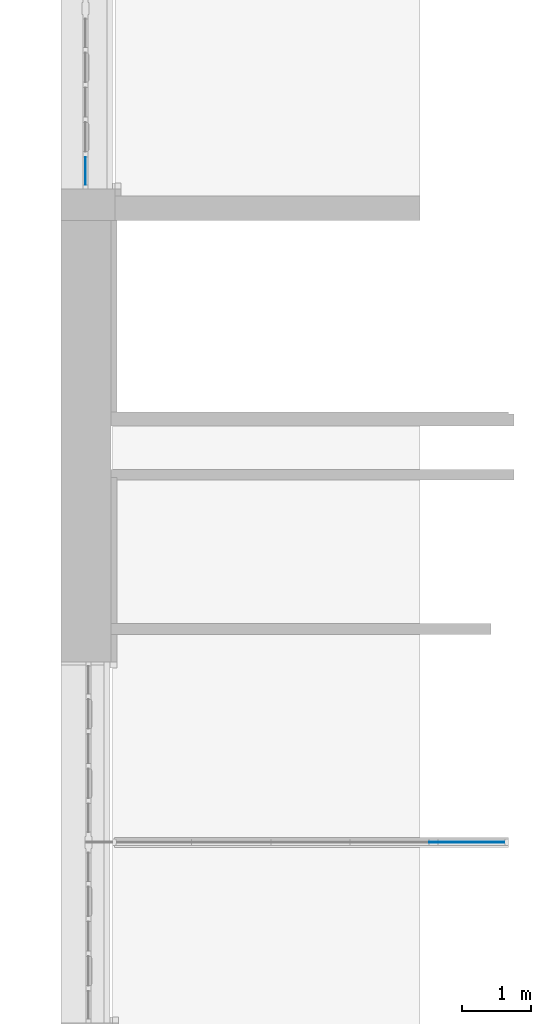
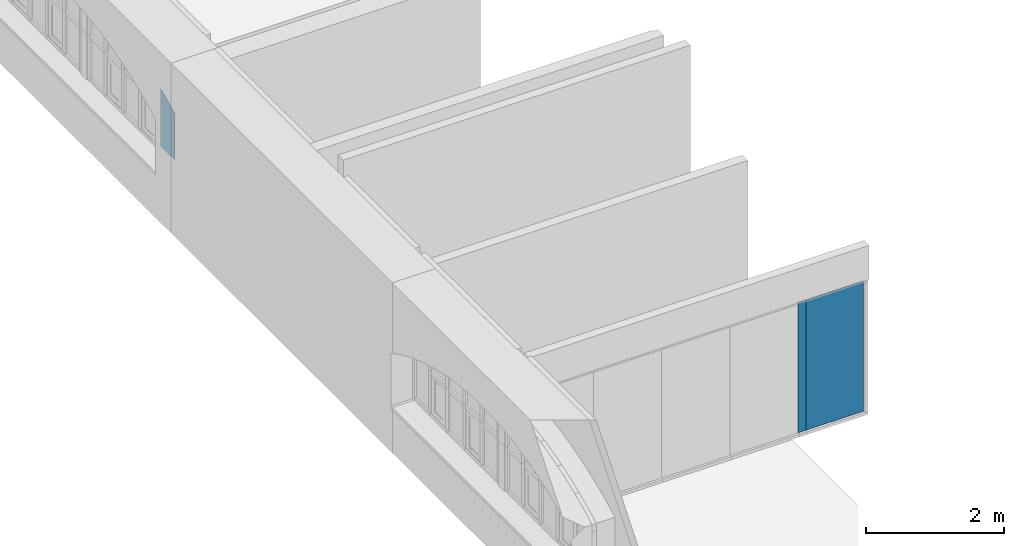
# One storey, part 23 of 32: 3 plates, 2 elements without a shape of their own.
"""IFC2X3 building model written with IfcOpenShell, lengths in millimetres."""

from ifc_helpers import new_model, entity, si_unit, converted_unit, derived_unit, direction, frame, frame_2d, origin, origin_2d_with_axis, place, context, subcontext, project, spatial, polyline, circle_curve, parameter, trimmed, segment, composite_curve, rectangle, outline, extrude, source, transform, mapped, material, type_object, type_shapes, element, aggregate, save


model = new_model("IFC2X3")

# Units and contexts
model_context = context("Model", 3, precision=0.01, world=origin(), true_north=direction((6.123031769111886e-17, 1.0)))
body_context = subcontext(model_context, "Body", "Model", "MODEL_VIEW")
ifc_project = project(units=[si_unit("LENGTHUNIT", "METRE", prefix="MILLI"), si_unit("AREAUNIT", "SQUARE_METRE"), si_unit("VOLUMEUNIT", "CUBIC_METRE"), converted_unit("PLANEANGLEUNIT", "DEGREE", entity("IfcPlaneAngleMeasure", 0.017453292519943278), si_unit("PLANEANGLEUNIT", "RADIAN"), dimensions=[0, 0, 0, 0, 0, 0, 0]), si_unit("MASSUNIT", "GRAM", prefix="KILO"), derived_unit("MASSDENSITYUNIT", [(si_unit("MASSUNIT", "GRAM", prefix="KILO"), 1), (si_unit("LENGTHUNIT", "METRE"), -3)]), derived_unit("IONCONCENTRATIONUNIT", [(si_unit("MASSUNIT", "GRAM", prefix="KILO"), 1), (si_unit("LENGTHUNIT", "METRE"), -3)]), derived_unit("MOMENTOFINERTIAUNIT", [(si_unit("LENGTHUNIT", "METRE"), 4)]), si_unit("TIMEUNIT", "SECOND"), si_unit("FREQUENCYUNIT", "HERTZ"), si_unit("THERMODYNAMICTEMPERATUREUNIT", "DEGREE_CELSIUS"), derived_unit("THERMALTRANSMITTANCEUNIT", [(si_unit("MASSUNIT", "GRAM", prefix="KILO"), 1), (si_unit("THERMODYNAMICTEMPERATUREUNIT", "KELVIN"), -1), (si_unit("TIMEUNIT", "SECOND"), -3)]), derived_unit("THERMALCONDUCTANCEUNIT", [(si_unit("MASSUNIT", "GRAM", prefix="KILO"), 1), (si_unit("THERMODYNAMICTEMPERATUREUNIT", "KELVIN"), -1), (si_unit("TIMEUNIT", "SECOND"), -3), (si_unit("LENGTHUNIT", "METRE"), 1)]), derived_unit("VOLUMETRICFLOWRATEUNIT", [(si_unit("LENGTHUNIT", "METRE", prefix="DECI"), 3), (si_unit("TIMEUNIT", "SECOND"), -1)]), derived_unit("MASSFLOWRATEUNIT", [(si_unit("MASSUNIT", "GRAM", prefix="KILO"), 1), (si_unit("TIMEUNIT", "SECOND"), -1)]), derived_unit("ROTATIONALFREQUENCYUNIT", [(si_unit("TIMEUNIT", "SECOND"), -1)]), si_unit("ELECTRICCURRENTUNIT", "AMPERE"), si_unit("ELECTRICVOLTAGEUNIT", "VOLT"), si_unit("POWERUNIT", "WATT"), si_unit("FORCEUNIT", "NEWTON", prefix="KILO"), si_unit("ILLUMINANCEUNIT", "LUX"), si_unit("LUMINOUSFLUXUNIT", "LUMEN"), si_unit("LUMINOUSINTENSITYUNIT", "CANDELA"), si_unit("ENERGYUNIT", "JOULE"), derived_unit("USERDEFINED", [(si_unit("MASSUNIT", "GRAM", prefix="KILO"), -1), (si_unit("LENGTHUNIT", "METRE"), -2), (si_unit("TIMEUNIT", "SECOND"), 3), (si_unit("LUMINOUSFLUXUNIT", "LUMEN"), 1)]), derived_unit("USERDEFINED", [(si_unit("MASSUNIT", "GRAM", prefix="KILO"), 1), (si_unit("TIMEUNIT", "SECOND"), -3), (si_unit("LENGTHUNIT", "METRE"), 3), (si_unit("ELECTRICCURRENTUNIT", "AMPERE"), -2)]), derived_unit("SOUNDPOWERUNIT", [(si_unit("MASSUNIT", "GRAM", prefix="KILO"), 1), (si_unit("TIMEUNIT", "SECOND"), -3), (si_unit("LENGTHUNIT", "METRE"), 2)]), derived_unit("SOUNDPRESSUREUNIT", [(si_unit("MASSUNIT", "GRAM", prefix="KILO"), 1), (si_unit("LENGTHUNIT", "METRE"), -1), (si_unit("TIMEUNIT", "SECOND"), -2)]), derived_unit("LINEARVELOCITYUNIT", [(si_unit("LENGTHUNIT", "METRE"), 1), (si_unit("TIMEUNIT", "SECOND"), -1)]), si_unit("PRESSUREUNIT", "PASCAL"), derived_unit("USERDEFINED", [(si_unit("MASSUNIT", "GRAM", prefix="KILO"), 1), (si_unit("LENGTHUNIT", "METRE"), -2), (si_unit("TIMEUNIT", "SECOND"), -2)]), derived_unit("LINEARFORCEUNIT", [(si_unit("MASSUNIT", "GRAM", prefix="KILO"), 1), (si_unit("TIMEUNIT", "SECOND"), -2)]), derived_unit("PLANARFORCEUNIT", [(si_unit("MASSUNIT", "GRAM", prefix="KILO"), 1), (si_unit("LENGTHUNIT", "METRE"), -1), (si_unit("TIMEUNIT", "SECOND"), -2)]), derived_unit("SPECIFICHEATCAPACITYUNIT", [(si_unit("THERMODYNAMICTEMPERATUREUNIT", "KELVIN"), -1), (si_unit("LENGTHUNIT", "METRE"), 2), (si_unit("TIMEUNIT", "SECOND"), -2)]), derived_unit("HEATFLUXDENSITYUNIT", [(si_unit("MASSUNIT", "GRAM", prefix="KILO"), 1), (si_unit("TIMEUNIT", "SECOND"), -3)]), derived_unit("HEATINGVALUEUNIT", [(si_unit("LENGTHUNIT", "METRE"), 2), (si_unit("TIMEUNIT", "SECOND"), -2)]), derived_unit("VAPORPERMEABILITYUNIT", [(si_unit("LENGTHUNIT", "METRE"), -1), (si_unit("TIMEUNIT", "SECOND"), 1)]), derived_unit("DYNAMICVISCOSITYUNIT", [(si_unit("MASSUNIT", "GRAM", prefix="KILO"), 1), (si_unit("TIMEUNIT", "SECOND"), -1), (si_unit("LENGTHUNIT", "METRE"), -1)]), derived_unit("THERMALEXPANSIONCOEFFICIENTUNIT", [(si_unit("THERMODYNAMICTEMPERATUREUNIT", "KELVIN"), -1)]), derived_unit("MODULUSOFELASTICITYUNIT", [(si_unit("MASSUNIT", "GRAM", prefix="KILO"), 1), (si_unit("LENGTHUNIT", "METRE"), -1), (si_unit("TIMEUNIT", "SECOND"), -2)]), derived_unit("ISOTHERMALMOISTURECAPACITYUNIT", [(si_unit("MASSUNIT", "GRAM", prefix="KILO"), -1), (si_unit("LENGTHUNIT", "METRE"), 3)]), derived_unit("MOISTUREDIFFUSIVITYUNIT", [(si_unit("TIMEUNIT", "SECOND"), -1), (si_unit("LENGTHUNIT", "METRE"), 2)]), derived_unit("MASSPERLENGTHUNIT", [(si_unit("MASSUNIT", "GRAM", prefix="KILO"), 1), (si_unit("LENGTHUNIT", "METRE"), -1)]), derived_unit("THERMALRESISTANCEUNIT", [(si_unit("MASSUNIT", "GRAM", prefix="KILO"), -1), (si_unit("TIMEUNIT", "SECOND"), 3), (si_unit("THERMODYNAMICTEMPERATUREUNIT", "KELVIN"), 1)]), derived_unit("ACCELERATIONUNIT", [(si_unit("LENGTHUNIT", "METRE"), 1), (si_unit("TIMEUNIT", "SECOND"), -2)]), derived_unit("ANGULARVELOCITYUNIT", [(si_unit("TIMEUNIT", "SECOND"), -1), (si_unit("PLANEANGLEUNIT", "RADIAN"), 1)]), derived_unit("LINEARSTIFFNESSUNIT", [(si_unit("MASSUNIT", "GRAM", prefix="KILO"), 1), (si_unit("TIMEUNIT", "SECOND"), -2)]), derived_unit("WARPINGCONSTANTUNIT", [(si_unit("LENGTHUNIT", "METRE"), 6)]), derived_unit("LINEARMOMENTUNIT", [(si_unit("MASSUNIT", "GRAM", prefix="KILO"), 1), (si_unit("LENGTHUNIT", "METRE"), 1), (si_unit("TIMEUNIT", "SECOND"), -2)]), derived_unit("TORQUEUNIT", [(si_unit("MASSUNIT", "GRAM", prefix="KILO"), 1), (si_unit("LENGTHUNIT", "METRE"), 2), (si_unit("TIMEUNIT", "SECOND"), -2)])], contexts=[model_context])

# Site, building, storey
site_placement = place(None, origin())
site = spatial("IfcSite", under=ifc_project, at=site_placement, Name="Default", CompositionType="ELEMENT")
building_placement = place(site_placement, origin())
building = spatial("IfcBuilding", under=site, at=building_placement, Name="Eesti Rahvusraamatukogu hoone renoveerimise projekteerimistööd", CompositionType="ELEMENT")
storey_placement = place(building_placement, frame((0.0, 0.0, 4950.000000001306)))
storey = spatial("IfcBuildingStorey", under=building, at=storey_placement, Name="2. korrus", CompositionType="ELEMENT", Elevation=4950.000000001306)

# Curtain wall, plates
curtain_wall_type_1 = type_object("IfcCurtainWallType", Name="Curtain Wall:VLS Klaasvahesein profiilita 38db", PredefinedType="NOTDEFINED")
curtain_wall_1_placement = place(storey_placement, frame((0.0, 0.0, -4950.000000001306)))
curtain_wall_1 = element("IfcCurtainWall", 1, at=curtain_wall_1_placement, inside=storey, type_object=curtain_wall_type_1, Name="Curtain Wall:VLS Klaasvahesein profiilita 38db", ObjectType="Curtain Wall:VLS Klaasvahesein profiilita 38db")
ifc_material_1 = material(Name="EST. Klaas. 1x. E-korpus")
plate_type_1 = type_object("IfcPlateType", Name="System Panel:VLS Klaas KAR/LAM 6+1+6", PredefinedType="CURTAIN_PANEL", material=ifc_material_1)
shared_shape_1 = source(origin(), body_context, "Body", "SweptSolid", [
    extrude(rectangle(XDim=13.000000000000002, YDim=128.3333333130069, at=origin_2d_with_axis()), frame((0.0, 0.0, 0.0), z_axis=(0.0, 0.0, 1.0), x_axis=(0.0, 1.0, 0.0)), (0.0, 0.0, 1.0), 2300.0000000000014),
])
type_shapes(plate_type_1, [shared_shape_1])
plate_1_placement = place(curtain_wall_1_placement, frame((-31415.83333352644, 21350.0, 5000.0)))
plate_1 = element("IfcPlate", 2, at=plate_1_placement, type_object=plate_type_1, material=ifc_material_1, Name="System Panel:VLS Klaas KAR/LAM 6+1+6", ObjectType="System Panel:VLS Klaas KAR/LAM 6+1+6", context=body_context, shape_type="MappedRepresentation", body=[
    mapped(shared_shape_1, transform((0.0, 0.0, 0.0), scale=1.0)),
])
plate_type_2 = type_object("IfcPlateType", Name="System Panel:VLS Klaas KAR/LAM 6+1+6", PredefinedType="CURTAIN_PANEL", material=ifc_material_1)
shared_shape_2 = source(origin(), body_context, "Body", "SweptSolid", [
    extrude(rectangle(XDim=13.000000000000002, YDim=961.6666668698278, at=origin_2d_with_axis()), frame((0.0, 0.0, 0.0), z_axis=(0.0, 0.0, 1.0), x_axis=(0.0, 1.0, 0.0)), (0.0, 0.0, 1.0), 2300.0000000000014),
])
type_shapes(plate_type_2, [shared_shape_2])
plate_2_placement = place(curtain_wall_1_placement, frame((-30870.833333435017, 21350.0, 5000.0)))
plate_2 = element("IfcPlate", 3, at=plate_2_placement, type_object=plate_type_2, material=ifc_material_1, Name="System Panel:VLS Klaas KAR/LAM 6+1+6", ObjectType="System Panel:VLS Klaas KAR/LAM 6+1+6", context=body_context, shape_type="MappedRepresentation", body=[
    mapped(shared_shape_2, transform((0.0, 0.0, 0.0), scale=1.0)),
])
aggregate(curtain_wall_1, [plate_1, plate_2])

# Curtain wall, plate
curtain_wall_type_2 = type_object("IfcCurtainWallType", Name="Curtain Wall:Ak-04", PredefinedType="NOTDEFINED")
curtain_wall_2_placement = place(storey_placement, frame((0.0, 0.0, -4950.000000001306)))
curtain_wall_2 = element("IfcCurtainWall", 4, at=curtain_wall_2_placement, inside=storey, type_object=curtain_wall_type_2, Name="Curtain Wall:Ak-04", ObjectType="Curtain Wall:Ak-04")
ifc_material_2 = material(Name="EST. Klaas. 3x. Default")
plate_type_3 = type_object("IfcPlateType", Name="System Panel:Peegelaknad 6-16-4-16-4, paneel", PredefinedType="CURTAIN_PANEL", material=ifc_material_2)
shared_shape_3 = source(origin(), body_context, "Body", "SweptSolid", [
    extrude(outline(composite_curve([segment(polyline([(-550.0682901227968, 200.0), (-550.0682901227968, -200.0)]), True, "CONTINUOUS"), segment(polyline([(-550.0682901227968, -200.0), (189.93170987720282, -200.0)]), True, "CONTINUOUS"), segment(polyline([(189.93170987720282, -200.0), (261.60987013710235, -200.0)]), True, "CONTINUOUS"), segment(trimmed(circle_curve(frame_2d((-4389.8444095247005, 2340.0), x_axis=(0.8754595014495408, -0.48329148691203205)), 5299.77611940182), [parameter(0.2631523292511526)], [parameter(5.085231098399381)], True, "PARAMETER"), True, "CONTINUOUS"), segment(polyline([(458.66329035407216, 200.0), (189.93170987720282, 200.0)]), True, "CONTINUOUS"), segment(polyline([(189.93170987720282, 200.0), (-550.0682901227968, 200.0)]), True, "CONTINUOUS")], self_intersect=False)), frame((0.0, -5.0, 550.0682901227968), z_axis=(0.0, -1.0, 0.0), x_axis=(0.0, 0.0, 1.0)), (0.0, 0.0, -1.0), 10.0),
])
type_shapes(plate_type_3, [shared_shape_3])
plate_3_placement = place(curtain_wall_2_placement, frame((-36425.0, 31015.44029191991, 5810.000000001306), z_axis=(0.0, 0.0, 1.0), x_axis=(0.0, -1.0, 0.0)))
plate_3 = element("IfcPlate", 5, at=plate_3_placement, type_object=plate_type_3, material=ifc_material_2, Name="System Panel:Peegelaknad 6-16-4-16-4, paneel", ObjectType="System Panel:Peegelaknad 6-16-4-16-4, paneel", context=body_context, shape_type="MappedRepresentation", body=[
    mapped(shared_shape_3, transform((0.0, 0.0, 0.0), scale=1.0)),
])
aggregate(curtain_wall_2, [plate_3])

save(model, "model.ifc")
